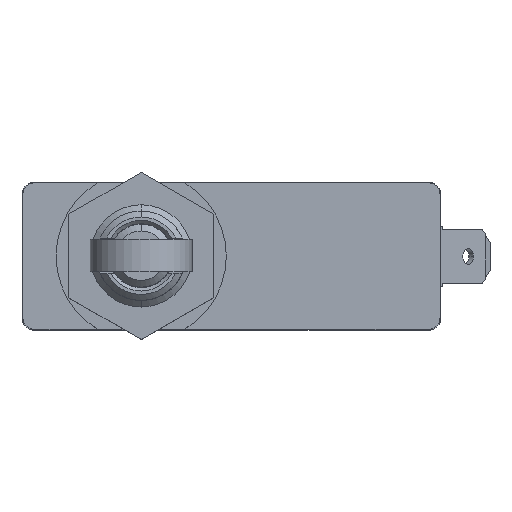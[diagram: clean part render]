
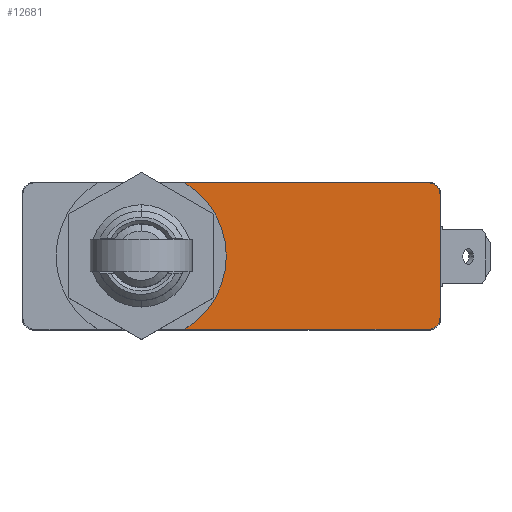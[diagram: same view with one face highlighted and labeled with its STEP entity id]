
A CAD part, top view. The second image highlights one B-rep face of the part: STEP entity #12681.
In plain terms, the highlighted planar face has unit normal (0, 0, 1).
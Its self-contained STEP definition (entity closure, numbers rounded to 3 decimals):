
#194 = ORIENTED_EDGE ( 'NONE', *, *, #10887, .T. ) ;
#645 = CARTESIAN_POINT ( 'NONE',  ( 23.1, -7.2, 18.4 ) ) ;
#706 = VERTEX_POINT ( 'NONE', #1358 ) ;
#939 = VECTOR ( 'NONE', #2769, 1000. ) ;
#1029 = VERTEX_POINT ( 'NONE', #1396 ) ;
#1080 = FACE_OUTER_BOUND ( 'NONE', #10680, .T. ) ;
#1245 = ORIENTED_EDGE ( 'NONE', *, *, #1811, .T. ) ;
#1358 = CARTESIAN_POINT ( 'NONE',  ( 24.5, -7.2, 18.4 ) ) ;
#1383 = EDGE_CURVE ( 'NONE', #13212, #6475, #8968, .T. ) ;
#1384 = VERTEX_POINT ( 'NONE', #7067 ) ;
#1396 = CARTESIAN_POINT ( 'NONE',  ( -5.497, -8.6, 18.4 ) ) ;
#1724 = DIRECTION ( 'NONE',  ( 1., 0., 0. ) ) ;
#1749 = DIRECTION ( 'NONE',  ( 0., 0., 1. ) ) ;
#1811 = EDGE_CURVE ( 'NONE', #706, #13212, #4145, .T. ) ;
#1853 = CARTESIAN_POINT ( 'NONE',  ( 23.1, -8.6, 18.4 ) ) ;
#1988 = VERTEX_POINT ( 'NONE', #1853 ) ;
#2474 = PLANE ( 'NONE',  #11768 ) ;
#2769 = DIRECTION ( 'NONE',  ( 0., 1., 0. ) ) ;
#4145 = LINE ( 'NONE', #13404, #939 ) ;
#4380 = DIRECTION ( 'NONE',  ( 0., 0., 1. ) ) ;
#4442 = CIRCLE ( 'NONE', #7918, 10. ) ;
#5450 = DIRECTION ( 'NONE',  ( -1., 0., 0. ) ) ;
#5684 = DIRECTION ( 'NONE',  ( 1., 0., 0. ) ) ;
#6088 = VECTOR ( 'NONE', #8041, 1000. ) ;
#6475 = VERTEX_POINT ( 'NONE', #10185 ) ;
#6540 = EDGE_CURVE ( 'NONE', #1988, #706, #10914, .T. ) ;
#7067 = CARTESIAN_POINT ( 'NONE',  ( -5.497, 8.6, 18.4 ) ) ;
#7185 = EDGE_CURVE ( 'NONE', #1029, #1988, #9588, .T. ) ;
#7889 = CARTESIAN_POINT ( 'NONE',  ( 24.5, 7.2, 18.4 ) ) ;
#7918 = AXIS2_PLACEMENT_3D ( 'NONE', #10763, #4380, #11837 ) ;
#8041 = DIRECTION ( 'NONE',  ( 1., 0., 0. ) ) ;
#8118 = DIRECTION ( 'NONE',  ( 0., 0., 1. ) ) ;
#8140 = CARTESIAN_POINT ( 'NONE',  ( 23.1, 7.2, 18.4 ) ) ;
#8472 = AXIS2_PLACEMENT_3D ( 'NONE', #8140, #1749, #9203 ) ;
#8834 = ORIENTED_EDGE ( 'NONE', *, *, #6540, .T. ) ;
#8837 = ORIENTED_EDGE ( 'NONE', *, *, #1383, .T. ) ;
#8845 = AXIS2_PLACEMENT_3D ( 'NONE', #645, #8118, #1724 ) ;
#8968 = CIRCLE ( 'NONE', #8472, 1.4 ) ;
#9171 = ORIENTED_EDGE ( 'NONE', *, *, #7185, .T. ) ;
#9203 = DIRECTION ( 'NONE',  ( 1., 0., 0. ) ) ;
#9588 = LINE ( 'NONE', #11238, #6088 ) ;
#9924 = CARTESIAN_POINT ( 'NONE',  ( 23.1, -7.2, 18.4 ) ) ;
#10185 = CARTESIAN_POINT ( 'NONE',  ( 23.1, 8.6, 18.4 ) ) ;
#10632 = LINE ( 'NONE', #11840, #13140 ) ;
#10680 = EDGE_LOOP ( 'NONE', ( #11967, #9171, #8834, #1245, #8837, #194 ) ) ;
#10763 = CARTESIAN_POINT ( 'NONE',  ( -10.6, 0., 18.4 ) ) ;
#10887 = EDGE_CURVE ( 'NONE', #6475, #1384, #10632, .T. ) ;
#10914 = CIRCLE ( 'NONE', #8845, 1.4 ) ;
#11238 = CARTESIAN_POINT ( 'NONE',  ( -23.1, -8.6, 18.4 ) ) ;
#11768 = AXIS2_PLACEMENT_3D ( 'NONE', #9924, #12074, #5684 ) ;
#11837 = DIRECTION ( 'NONE',  ( 1., 0., 0. ) ) ;
#11840 = CARTESIAN_POINT ( 'NONE',  ( 23.1, 8.6, 18.4 ) ) ;
#11967 = ORIENTED_EDGE ( 'NONE', *, *, #13022, .F. ) ;
#12074 = DIRECTION ( 'NONE',  ( 0., 0., 1. ) ) ;
#12681 = ADVANCED_FACE ( 'NONE', ( #1080 ), #2474, .T. ) ;
#13022 = EDGE_CURVE ( 'NONE', #1029, #1384, #4442, .T. ) ;
#13140 = VECTOR ( 'NONE', #5450, 1000. ) ;
#13212 = VERTEX_POINT ( 'NONE', #7889 ) ;
#13404 = CARTESIAN_POINT ( 'NONE',  ( 24.5, -7.2, 18.4 ) ) ;
